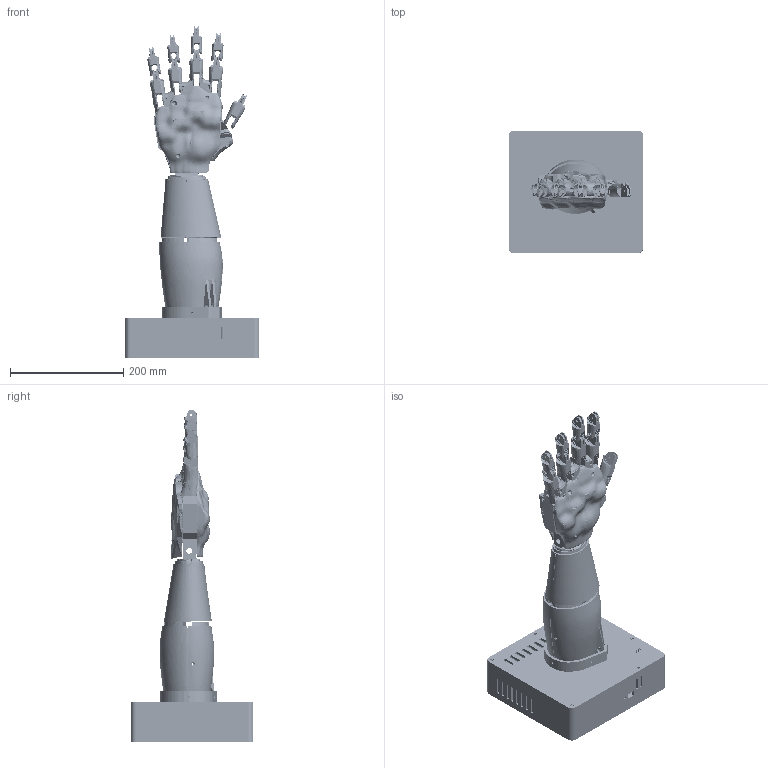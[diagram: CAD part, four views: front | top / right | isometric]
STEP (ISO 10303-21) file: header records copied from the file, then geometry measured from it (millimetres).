
FILE_DESCRIPTION(('Open CASCADE Model'),'2;1');
FILE_NAME('Open CASCADE Shape Model','2026-11-17T17:46:28',('Author'),( 'Open CASCADE'),'Open CASCADE STEP processor 7.9','Open CASCADE 7.9' ,'Unknown');
FILE_SCHEMA(('AUTOMOTIVE_DESIGN { 1 0 10303 214 1 1 1 1 }'));
Length unit declared in the file: millimetre
Products named in the file (17): HAEBOT_P1_full_arm; 01_palm_frame; 02_back_cover_logo; 03_palm_cover; ref_fingers_i2_x1.28_look_only; STS3215_1_thumb; 04_ring_pulley_thumb; 05a_forearm_robpart2; 05b_forearm_robpart3; 05c_forearm_robpart4; 05d_forearm_robpart5; 06_wrist_block; ref_board_100x60_envelope; 10_base_pan; 11_base_lid; 12_psu_strap_1; ref_MeanWell_LRS-350-12_envelope
Assembly tree (25 placements, depth 2):
  HAEBOT_P1_full_arm
    01_palm_frame
    02_back_cover_logo
    03_palm_cover
    ref_fingers_i2_x1.28_look_only
    STS3215_1_thumb  x5
    04_ring_pulley_thumb  x5
    05a_forearm_robpart2
    05b_forearm_robpart3
    05c_forearm_robpart4
    05d_forearm_robpart5
    06_wrist_block
    ref_board_100x60_envelope
    10_base_pan
    11_base_lid
    12_psu_strap_1  x2
    ref_MeanWell_LRS-350-12_envelope
Bounding box: 238 x 217 x 587.33 mm (x, y, z)
Volume: 2270727 mm3; surface area: 916810.2 mm2
Topology: 63 solids, 74 shells, 48413 faces, 79966 edges, 31692 vertices
Faces by surface type: plane 46497, cylinder 1548, cone 170, bspline 90, extrusion 68, torus 35, sphere 5
Full cylindrical faces by diameter (mm): 1 x30, 1.5 x50, 1.6 x10, 2 x30, 2.2 x20, 2.5 x5, 2.529 x120, 2.927 x5, 3 x10, 3.086 x35, 3.1 x15, 3.4 x14, 3.5 x10, 4 x14, 4.4 x4, 6 x25, 6.4 x6, 7 x4, 9 x10, 10 x17, 20 x14, 20.4 x5, 26 x10
Entity records: 1805554 total; most frequent: CARTESIAN_POINT 374534, DIRECTION 240616, VECTOR 148329, LINE 148261, ORIENTED_EDGE 143198, PCURVE 143198, DEFINITIONAL_REPRESENTATION 143198, EDGE_CURVE 71599
